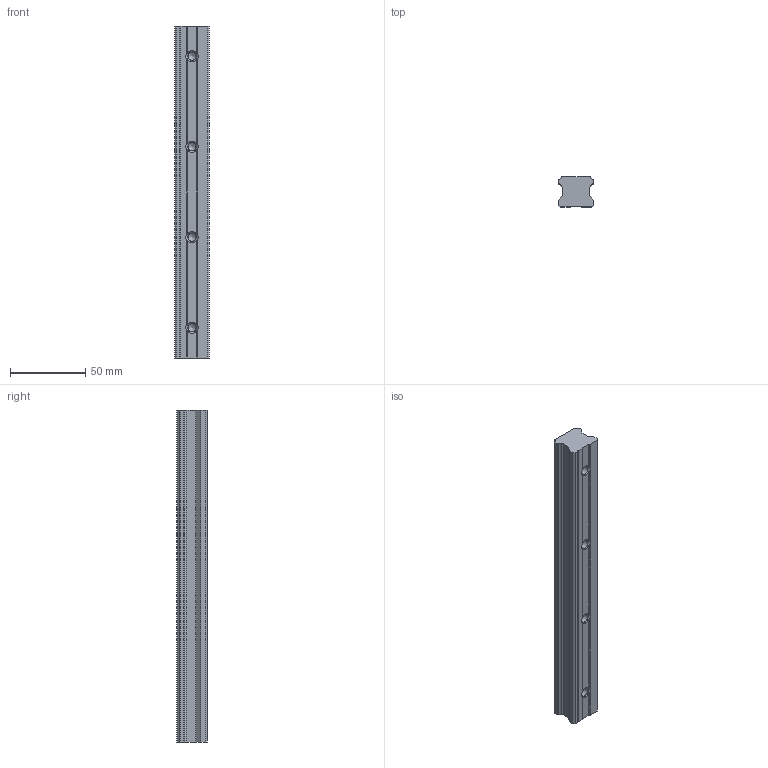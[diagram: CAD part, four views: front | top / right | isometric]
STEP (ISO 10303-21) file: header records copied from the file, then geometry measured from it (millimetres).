
FILE_DESCRIPTION (( 'STEP AP203' ), '1' );
FILE_NAME ('SBI 25 B.STEP', '2015-01-09T06:06:17', ( 'john' ), ( '' ), 'SwSTEP 2.0', 'SolidWorks 2013', '' );
FILE_SCHEMA (( 'CONFIG_CONTROL_DESIGN' ));
Length unit declared in the file: millimetre
Products named in the file (1): SBI 25 B
Bounding box: 23 x 20 x 220 mm (x, y, z)
Volume: 87758.1 mm3; surface area: 20935.7 mm2
Topology: 1 solids, 1 shells, 74 faces, 212 edges, 136 vertices
Faces by surface type: plane 39, cylinder 23, cone 12
Full cylindrical faces by diameter (mm): 5.3 x4, 6 x4
Entity records: 2395 total; most frequent: CARTESIAN_POINT 547, ORIENTED_EDGE 368, DIRECTION 348, EDGE_CURVE 184, VERTEX_POINT 128, AXIS2_PLACEMENT_3D 121, LINE 106, VECTOR 106
